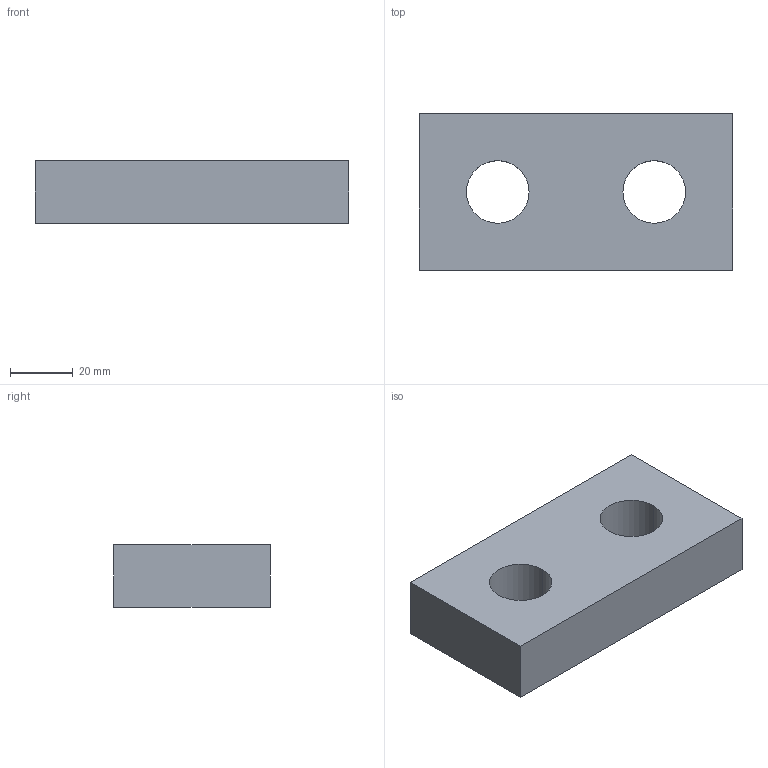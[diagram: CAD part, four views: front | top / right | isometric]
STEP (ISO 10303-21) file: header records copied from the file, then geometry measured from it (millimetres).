
FILE_DESCRIPTION(('CATIA V5 STEP'),'2;1');
FILE_NAME('P:\_sw\STEP\test01.stp','2015-04-09T08:25:42+00:00',('none'),('none'),'CATIA Version 5 Release 19 SP 9 (IN-10)','CATIA V5 STEP AP214','none');
FILE_SCHEMA(('AUTOMOTIVE_DESIGN { 1 0 10303 214 1 1 1 1 }'));
Length unit declared in the file: millimetre
Products named in the file (1): test01
Bounding box: 100 x 50 x 20 mm (x, y, z)
Volume: 87433.6 mm3; surface area: 17256.6 mm2
Topology: 1 solids, 1 shells, 10 faces, 28 edges, 32 vertices
Faces by surface type: plane 6, cylinder 4
Entity records: 404 total; most frequent: CARTESIAN_POINT 71, ORIENTED_EDGE 48, DIRECTION 44, EDGE_CURVE 24, AXIS2_PLACEMENT_3D 21, VECTOR 16, LINE 16, VERTEX_POINT 16
